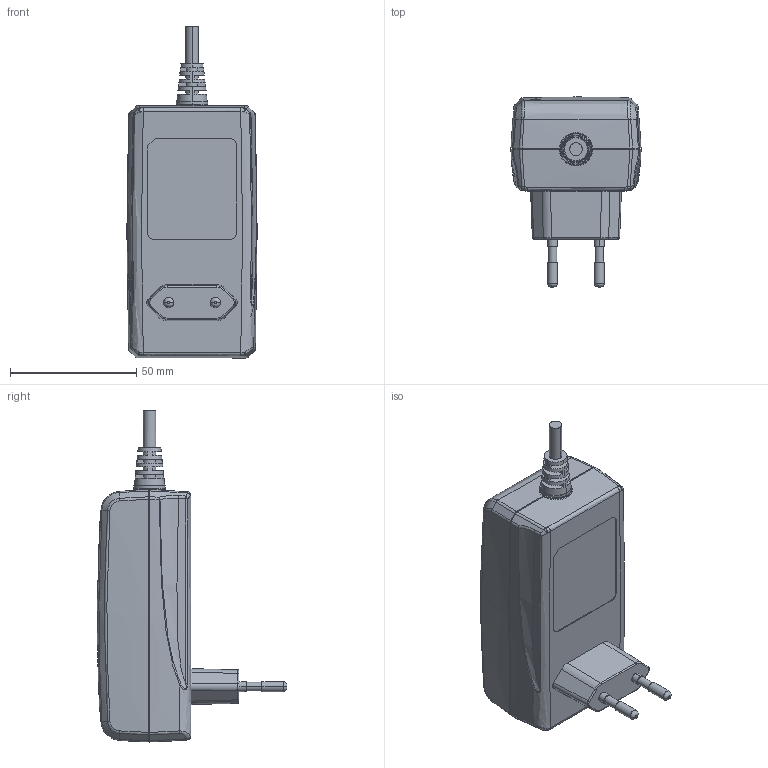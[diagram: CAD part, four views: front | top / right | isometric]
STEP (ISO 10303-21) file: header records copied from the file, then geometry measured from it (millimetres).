
FILE_DESCRIPTION(/* description */ (''),/* implementation_level */ '2;1');
FILE_NAME(/* name */ 'TP7_歐規',/* time_stamp */ '2015-03-02T17:48:39+08:00',/* author */ (''),/* organization */ (''),/* preprocessor_version */ 'ST-DEVELOPER v15',/* originating_system */ '',/* authorisation */ '');
FILE_SCHEMA (('AUTOMOTIVE_DESIGN_CC2'));
Length unit declared in the file: millimetre
Products named in the file (1): Document
Bounding box: 51.56 x 75.2 x 131.42 mm (x, y, z)
Volume: 1717.5 mm3; surface area: 32735.6 mm2
Topology: 1 solids, 9 shells, 439 faces, 1146 edges, 732 vertices
Faces by surface type: bspline 439
Entity records: 93402 total; most frequent: CARTESIAN_POINT 78845, B_SPLINE_CURVE_WITH_KNOTS 3069, ORIENTED_EDGE 2227, PCURVE 2227, DEFINITIONAL_REPRESENTATION 2227, SURFACE_CURVE 1136, EDGE_CURVE 1136, VERTEX_POINT 732
